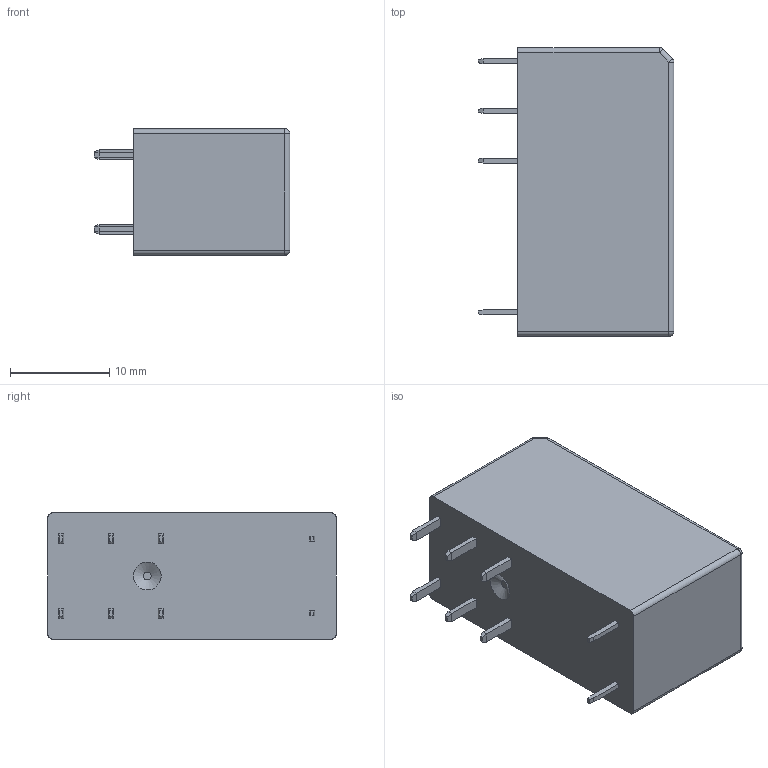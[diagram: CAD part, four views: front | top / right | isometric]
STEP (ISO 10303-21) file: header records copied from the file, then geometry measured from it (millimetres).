
FILE_DESCRIPTION(('STEP AP214'), '1');
FILE_NAME('ÐÏ31-001', '2023-11-21T06:14:59', (''), (''), 'ASCON STEP Converter 1.6', 'ASCON Math Kernel', '');
FILE_SCHEMA(('AUTOMOTIVE_DESIGN { 1 0 10303 214 3 1 1}'));
Length unit declared in the file: millimetre
Bounding box: 19.7 x 29 x 12.7 mm (x, y, z)
Volume: 5764.7 mm3; surface area: 2152.1 mm2
Topology: 1 solids, 1 shells, 2166 faces, 6144 edges, 4078 vertices
Faces by surface type: cylinder 1299, plane 857, sphere 6, cone 4
Full cylindrical faces by diameter (mm): 2.1 x1
Entity records: 88615 total; most frequent: DIRECTION 13073, CARTESIAN_POINT 12378, ORIENTED_EDGE 12266, EDGE_CURVE 6133, AXIS2_PLACEMENT_3D 4773, VERTEX_POINT 4078, LINE 3527, VECTOR 3527
